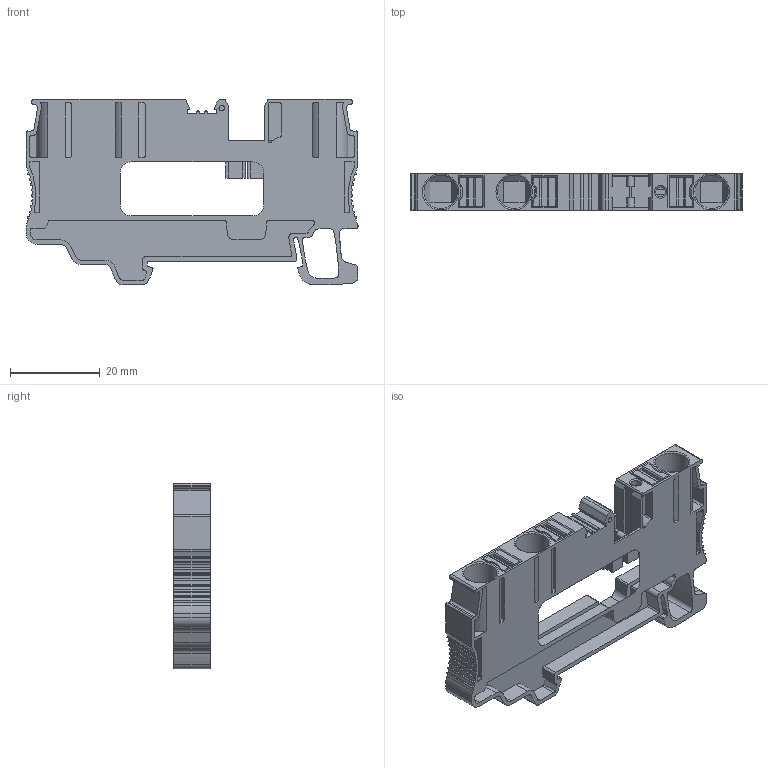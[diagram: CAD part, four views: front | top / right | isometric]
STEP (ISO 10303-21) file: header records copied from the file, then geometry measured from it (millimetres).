
FILE_DESCRIPTION(('Open CASCADE Model'),'2;1');
FILE_NAME('Open CASCADE Shape Model','2022-10-26T16:05:51',('Author'),( 'Open CASCADE'),'Open CASCADE STEP processor 6.5','Open CASCADE 6.5' ,'Unknown');
FILE_SCHEMA(('AUTOMOTIVE_DESIGN { 1 0 10303 214 1 1 1 1 }'));
Length unit declared in the file: millimetre
Products named in the file (656): CADSOFTTOOLS 3; CADSOFTTOOLS 3.1; CADSOFTTOOLS 3.2; CADSOFTTOOLS 3.3; CADSOFTTOOLS 3.4; CADSOFTTOOLS 3.5; CADSOFTTOOLS 3.6; CADSOFTTOOLS 3.7; CADSOFTTOOLS 3.8; CADSOFTTOOLS 3.9; CADSOFTTOOLS 3.10; CADSOFTTOOLS 3.11; CADSOFTTOOLS 3.12; CADSOFTTOOLS 3.13; CADSOFTTOOLS 3.14; CADSOFTTOOLS 3.15; CADSOFTTOOLS 3.16; CADSOFTTOOLS 3.17; CADSOFTTOOLS 3.18; CADSOFTTOOLS 3.19; CADSOFTTOOLS 3.20; CADSOFTTOOLS 3.21; CADSOFTTOOLS 3.22; CADSOFTTOOLS 3.23; CADSOFTTOOLS 3.24; CADSOFTTOOLS 3.25; CADSOFTTOOLS 3.26; CADSOFTTOOLS 3.27; CADSOFTTOOLS 3.28; CADSOFTTOOLS 3.29; CADSOFTTOOLS 3.30; CADSOFTTOOLS 3.31; CADSOFTTOOLS 3.32; CADSOFTTOOLS 3.33; CADSOFTTOOLS 3.34; CADSOFTTOOLS 3.35; CADSOFTTOOLS 3.36; CADSOFTTOOLS 3.37; CADSOFTTOOLS 3.38; CADSOFTTOOLS 3.39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
Assembly tree (655 placements, depth 2):
  CADSOFTTOOLS 3
    CADSOFTTOOLS 3.1
    CADSOFTTOOLS 3.2
    CADSOFTTOOLS 3.3
    CADSOFTTOOLS 3.4
    CADSOFTTOOLS 3.5
    CADSOFTTOOLS 3.6
    CADSOFTTOOLS 3.7
    CADSOFTTOOLS 3.8
    CADSOFTTOOLS 3.9
    CADSOFTTOOLS 3.10
    CADSOFTTOOLS 3.11
    CADSOFTTOOLS 3.12
    CADSOFTTOOLS 3.13
    CADSOFTTOOLS 3.14
    CADSOFTTOOLS 3.15
    CADSOFTTOOLS 3.16
    CADSOFTTOOLS 3.17
    CADSOFTTOOLS 3.18
    CADSOFTTOOLS 3.19
    CADSOFTTOOLS 3.20
    CADSOFTTOOLS 3.21
    CADSOFTTOOLS 3.22
    CADSOFTTOOLS 3.23
    CADSOFTTOOLS 3.24
    CADSOFTTOOLS 3.25
    CADSOFTTOOLS 3.26
    CADSOFTTOOLS 3.27
    CADSOFTTOOLS 3.28
    CADSOFTTOOLS 3.29
    CADSOFTTOOLS 3.30
    CADSOFTTOOLS 3.31
    CADSOFTTOOLS 3.32
    CADSOFTTOOLS 3.33
    CADSOFTTOOLS 3.34
    CADSOFTTOOLS 3.35
    CADSOFTTOOLS 3.36
    CADSOFTTOOLS 3.37
    CADSOFTTOOLS 3.38
    CADSOFTTOOLS 3.39
    CADSOFTTOOLS 3.40
    CADSOFTTOOLS 3.41
    CADSOFTTOOLS 3.42
    CADSOFTTOOLS 3.43
    CADSOFTTOOLS 3.44
    CADSOFTTOOLS 3.45
    CADSOFTTOOLS 3.46
    CADSOFTTOOLS 3.47
    CADSOFTTOOLS 3.48
    CADSOFTTOOLS 3.49
    CADSOFTTOOLS 3.50
    CADSOFTTOOLS 3.51
    CADSOFTTOOLS 3.52
    CADSOFTTOOLS 3.53
    CADSOFTTOOLS 3.54
    CADSOFTTOOLS 3.55
    CADSOFTTOOLS 3.56
    CADSOFTTOOLS 3.57
    CADSOFTTOOLS 3.58
    CADSOFTTOOLS 3.59
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Bounding box: 74.1 x 8.2 x 41.4 mm (x, y, z)
Surface area: 9071.1 mm2 (no closed solid volume)
Topology: 0 solids, 655 shells, 655 faces, 3278 edges, 3268 vertices
Faces by surface type: plane 406, cylinder 228, extrusion 7, cone 6, torus 4, bspline 4
Full cylindrical faces by diameter (mm): 1.2 x2, 2.2 x1, 7.5 x3
Entity records: 74381 total; most frequent: CARTESIAN_POINT 20157, DIRECTION 8560, VECTOR 4134, LINE 4127, ORIENTED_EDGE 3288, PCURVE 3288, DEFINITIONAL_REPRESENTATION 3288, EDGE_CURVE 3278
